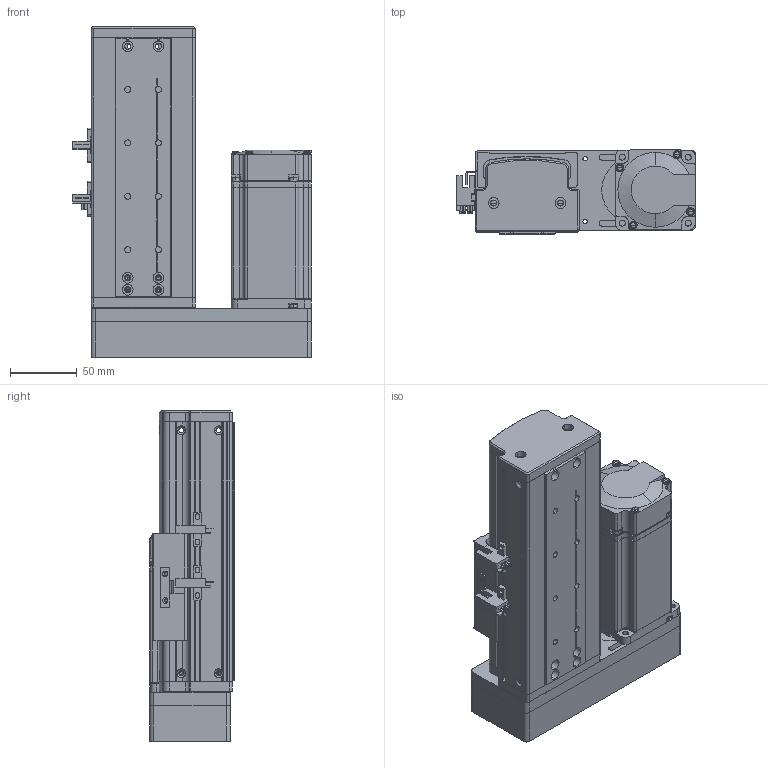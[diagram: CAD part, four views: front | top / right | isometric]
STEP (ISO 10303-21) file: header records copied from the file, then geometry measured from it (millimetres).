
FILE_DESCRIPTION (( 'STEP AP214' ), '1' );
FILE_NAME ('KSD75S-S40-ML-CM.STEP', '2019-10-18T06:51:40', ( '微软用户' ), ( '微软中国' ), 'SwSTEP 2.0', 'SolidWorks 2014', '' );
FILE_SCHEMA (( 'AUTOMOTIVE_DESIGN' ));
Length unit declared in the file: millimetre
Products named in the file (13): KSD75S-S40-ML-CM; MGW15H賑寢40俴最; MGW15H賑寢40俴最 ; 75遵賑雄釱; 75遵耀郪耜啣-40俴最; 75裔啣-40俴最; ヶ傷啣; 綴傷啣 ; U倰嫖萇EEㄜSX672; 覜茼え100遵圉猾敕; 75宽马达安装板连板左右折丝杆; 75宽模组保护罩左右折; MHMD042G1CA_2_03
Assembly tree (14 placements, depth 3):
  KSD75S-S40-ML-CM
    MGW15H賑寢40俴最 
      MGW15H賑寢40俴最
    75遵賑雄釱
    75遵耀郪耜啣-40俴最  x2
    75裔啣-40俴最
    ヶ傷啣
    綴傷啣 
    U倰嫖萇EEㄜSX672  x2
    覜茼え100遵圉猾敕
    75宽马达安装板连板左右折丝杆
    75宽模组保护罩左右折
    MHMD042G1CA_2_03
Bounding box: 178.7 x 63 x 247.5 mm (x, y, z)
Volume: 499511.1 mm3; surface area: 310995.8 mm2
Topology: 12 solids, 13 shells, 1273 faces, 3640 edges, 2369 vertices
Faces by surface type: cylinder 589, plane 537, cone 129, bspline 18
Entity records: 44138 total; most frequent: CARTESIAN_POINT 8467, DIRECTION 6462, ORIENTED_EDGE 6124, EDGE_CURVE 3133, AXIS2_PLACEMENT_3D 2331, VERTEX_POINT 2075, VECTOR 1800, LINE 1800
